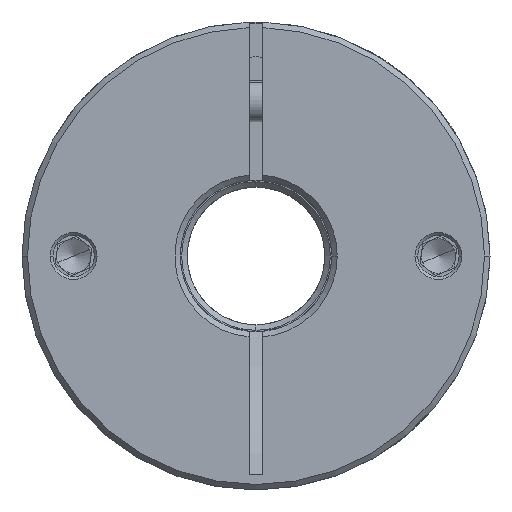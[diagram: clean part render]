
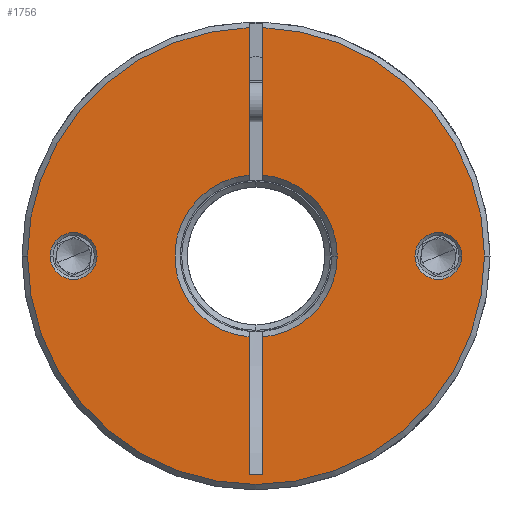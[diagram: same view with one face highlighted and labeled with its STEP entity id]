
A CAD part, front view. The second image highlights one B-rep face of the part: STEP entity #1756.
In plain terms, the highlighted planar face has unit normal (0, -1, 0).
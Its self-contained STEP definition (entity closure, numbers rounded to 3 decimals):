
#182 = EDGE_CURVE ( 'NONE', #680, #11649, #7824, .T. ) ;
#199 = EDGE_CURVE ( 'NONE', #8150, #680, #2645, .T. ) ;
#409 = CARTESIAN_POINT ( 'NONE',  ( -25.835, -47.045, 68. ) ) ;
#478 = AXIS2_PLACEMENT_3D ( 'NONE', #9976, #4789, #12932 ) ;
#487 = DIRECTION ( 'NONE',  ( 0., 1., 0. ) ) ;
#680 = VERTEX_POINT ( 'NONE', #10669 ) ;
#716 = CARTESIAN_POINT ( 'NONE',  ( -3.735, -47.045, 79.758 ) ) ;
#1042 = EDGE_CURVE ( 'NONE', #12884, #9621, #4394, .T. ) ;
#1096 = VECTOR ( 'NONE', #11996, 1000. ) ;
#1102 = CARTESIAN_POINT ( 'NONE',  ( -3.735, -47.045, 36.279 ) ) ;
#1108 = VERTEX_POINT ( 'NONE', #5013 ) ;
#1195 = EDGE_CURVE ( 'NONE', #12513, #1473, #5344, .T. ) ;
#1197 = DIRECTION ( 'NONE',  ( 1., 0., 0. ) ) ;
#1293 = CARTESIAN_POINT ( 'NONE',  ( -35.935, -47.045, 68. ) ) ;
#1357 = LINE ( 'NONE', #8337, #7387 ) ;
#1437 = AXIS2_PLACEMENT_3D ( 'NONE', #12860, #10727, #11833 ) ;
#1473 = VERTEX_POINT ( 'NONE', #6521 ) ;
#1756 = ADVANCED_FACE ( 'NONE', ( #9900, #7290, #4520 ), #13023, .T. ) ;
#1832 = CIRCLE ( 'NONE', #10543, 3.4 ) ;
#1925 = DIRECTION ( 'NONE',  ( 0., 1., 0. ) ) ;
#2071 = DIRECTION ( 'NONE',  ( 0., 0., -1. ) ) ;
#2102 = VECTOR ( 'NONE', #5621, 1000. ) ;
#2313 = ORIENTED_EDGE ( 'NONE', *, *, #3287, .T. ) ;
#2468 = AXIS2_PLACEMENT_3D ( 'NONE', #6723, #487, #5790 ) ;
#2519 = EDGE_CURVE ( 'NONE', #1473, #12513, #13300, .T. ) ;
#2645 = LINE ( 'NONE', #5507, #5055 ) ;
#2768 = DIRECTION ( 'NONE',  ( 1., 0., 0. ) ) ;
#3016 = ORIENTED_EDGE ( 'NONE', *, *, #6584, .T. ) ;
#3032 = CIRCLE ( 'NONE', #1437, 11.8 ) ;
#3068 = DIRECTION ( 'NONE',  ( 1., 0., 0. ) ) ;
#3071 = VECTOR ( 'NONE', #11389, 1000. ) ;
#3287 = EDGE_CURVE ( 'NONE', #8914, #8335, #6271, .T. ) ;
#3343 = DIRECTION ( 'NONE',  ( 0., 1., 0. ) ) ;
#3471 = CIRCLE ( 'NONE', #11650, 33.2 ) ;
#3552 = ORIENTED_EDGE ( 'NONE', *, *, #7817, .T. ) ;
#3562 = AXIS2_PLACEMENT_3D ( 'NONE', #4354, #3343, #5421 ) ;
#3773 = VERTEX_POINT ( 'NONE', #3913 ) ;
#3802 = ORIENTED_EDGE ( 'NONE', *, *, #13337, .F. ) ;
#3913 = CARTESIAN_POINT ( 'NONE',  ( -1.735, -47.045, 36.279 ) ) ;
#3931 = EDGE_LOOP ( 'NONE', ( #9073, #12869 ) ) ;
#3959 = CARTESIAN_POINT ( 'NONE',  ( 20.365, -47.045, 68. ) ) ;
#4154 = AXIS2_PLACEMENT_3D ( 'NONE', #7930, #11969, #2768 ) ;
#4345 = EDGE_CURVE ( 'NONE', #13047, #8335, #1357, .T. ) ;
#4354 = CARTESIAN_POINT ( 'NONE',  ( -2.735, -47.045, 68. ) ) ;
#4359 = DIRECTION ( 'NONE',  ( 1., 0., 0. ) ) ;
#4394 = CIRCLE ( 'NONE', #6714, 3.4 ) ;
#4454 = AXIS2_PLACEMENT_3D ( 'NONE', #13307, #9154, #4804 ) ;
#4520 = FACE_OUTER_BOUND ( 'NONE', #8253, .T. ) ;
#4789 = DIRECTION ( 'NONE',  ( 0., -1., 0. ) ) ;
#4804 = DIRECTION ( 'NONE',  ( 1., 0., 0. ) ) ;
#4861 = LINE ( 'NONE', #10451, #3071 ) ;
#5013 = CARTESIAN_POINT ( 'NONE',  ( -1.735, -47.045, 56.242 ) ) ;
#5055 = VECTOR ( 'NONE', #5741, 1000. ) ;
#5267 = CARTESIAN_POINT ( 'NONE',  ( -3.735, -47.045, 101.185 ) ) ;
#5344 = CIRCLE ( 'NONE', #8608, 3.4 ) ;
#5421 = DIRECTION ( 'NONE',  ( 1., 0., 0. ) ) ;
#5507 = CARTESIAN_POINT ( 'NONE',  ( -1.735, -47.045, 68. ) ) ;
#5527 = VERTEX_POINT ( 'NONE', #1102 ) ;
#5621 = DIRECTION ( 'NONE',  ( 0., 0., -1. ) ) ;
#5741 = DIRECTION ( 'NONE',  ( 0., 0., -1. ) ) ;
#5790 = DIRECTION ( 'NONE',  ( 1., 0., 0. ) ) ;
#6181 = CARTESIAN_POINT ( 'NONE',  ( -29.235, -47.045, 68. ) ) ;
#6271 = CIRCLE ( 'NONE', #2468, 11.8 ) ;
#6296 = CARTESIAN_POINT ( 'NONE',  ( -29.235, -47.045, 68. ) ) ;
#6444 = CARTESIAN_POINT ( 'NONE',  ( -2.735, -47.045, 68. ) ) ;
#6521 = CARTESIAN_POINT ( 'NONE',  ( 27.165, -47.045, 68. ) ) ;
#6584 = EDGE_CURVE ( 'NONE', #1108, #3773, #4861, .T. ) ;
#6628 = CARTESIAN_POINT ( 'NONE',  ( -1.735, -47.045, 101.185 ) ) ;
#6666 = DIRECTION ( 'NONE',  ( 1., 0., 0. ) ) ;
#6679 = AXIS2_PLACEMENT_3D ( 'NONE', #8836, #11820, #6666 ) ;
#6714 = AXIS2_PLACEMENT_3D ( 'NONE', #6181, #1925, #3068 ) ;
#6723 = CARTESIAN_POINT ( 'NONE',  ( -2.735, -47.045, 68. ) ) ;
#6839 = ORIENTED_EDGE ( 'NONE', *, *, #10158, .T. ) ;
#6920 = CARTESIAN_POINT ( 'NONE',  ( -3.735, -47.045, 36.279 ) ) ;
#6924 = ORIENTED_EDGE ( 'NONE', *, *, #7226, .T. ) ;
#7226 = EDGE_CURVE ( 'NONE', #3773, #5527, #10058, .T. ) ;
#7290 = FACE_BOUND ( 'NONE', #9263, .T. ) ;
#7387 = VECTOR ( 'NONE', #2071, 1000. ) ;
#7753 = EDGE_CURVE ( 'NONE', #13047, #9512, #11473, .T. ) ;
#7817 = EDGE_CURVE ( 'NONE', #9512, #10668, #9532, .T. ) ;
#7824 = CIRCLE ( 'NONE', #3562, 11.8 ) ;
#7930 = CARTESIAN_POINT ( 'NONE',  ( -2.735, -47.045, 68. ) ) ;
#8150 = VERTEX_POINT ( 'NONE', #6628 ) ;
#8170 = EDGE_CURVE ( 'NONE', #11649, #1108, #3032, .T. ) ;
#8238 = ORIENTED_EDGE ( 'NONE', *, *, #199, .T. ) ;
#8253 = EDGE_LOOP ( 'NONE', ( #9739, #10892, #3552, #6839, #8238, #10765, #11880, #3016, #6924, #3802, #2313 ) ) ;
#8335 = VERTEX_POINT ( 'NONE', #716 ) ;
#8337 = CARTESIAN_POINT ( 'NONE',  ( -3.735, -47.045, 68. ) ) ;
#8608 = AXIS2_PLACEMENT_3D ( 'NONE', #11495, #11407, #10517 ) ;
#8836 = CARTESIAN_POINT ( 'NONE',  ( -2.735, -47.045, 68. ) ) ;
#8914 = VERTEX_POINT ( 'NONE', #9229 ) ;
#9073 = ORIENTED_EDGE ( 'NONE', *, *, #2519, .T. ) ;
#9154 = DIRECTION ( 'NONE',  ( 0., 1., 0. ) ) ;
#9229 = CARTESIAN_POINT ( 'NONE',  ( -3.735, -47.045, 56.242 ) ) ;
#9263 = EDGE_LOOP ( 'NONE', ( #9734, #9397 ) ) ;
#9397 = ORIENTED_EDGE ( 'NONE', *, *, #1042, .T. ) ;
#9512 = VERTEX_POINT ( 'NONE', #1293 ) ;
#9532 = CIRCLE ( 'NONE', #4154, 33.2 ) ;
#9562 = DIRECTION ( 'NONE',  ( 0., -1., 0. ) ) ;
#9621 = VERTEX_POINT ( 'NONE', #409 ) ;
#9734 = ORIENTED_EDGE ( 'NONE', *, *, #10148, .T. ) ;
#9739 = ORIENTED_EDGE ( 'NONE', *, *, #4345, .F. ) ;
#9744 = CARTESIAN_POINT ( 'NONE',  ( -32.635, -47.045, 68. ) ) ;
#9900 = FACE_BOUND ( 'NONE', #3931, .T. ) ;
#9976 = CARTESIAN_POINT ( 'NONE',  ( -2.735, -47.045, 68. ) ) ;
#10058 = LINE ( 'NONE', #6920, #1096 ) ;
#10069 = CARTESIAN_POINT ( 'NONE',  ( 30.465, -47.045, 68. ) ) ;
#10148 = EDGE_CURVE ( 'NONE', #9621, #12884, #1832, .T. ) ;
#10158 = EDGE_CURVE ( 'NONE', #10668, #8150, #3471, .T. ) ;
#10451 = CARTESIAN_POINT ( 'NONE',  ( -1.735, -47.045, 68. ) ) ;
#10517 = DIRECTION ( 'NONE',  ( 1., 0., 0. ) ) ;
#10543 = AXIS2_PLACEMENT_3D ( 'NONE', #6296, #11421, #4359 ) ;
#10668 = VERTEX_POINT ( 'NONE', #10069 ) ;
#10669 = CARTESIAN_POINT ( 'NONE',  ( -1.735, -47.045, 79.758 ) ) ;
#10727 = DIRECTION ( 'NONE',  ( 0., 1., 0. ) ) ;
#10765 = ORIENTED_EDGE ( 'NONE', *, *, #182, .T. ) ;
#10806 = CARTESIAN_POINT ( 'NONE',  ( -3.735, -47.045, 68. ) ) ;
#10892 = ORIENTED_EDGE ( 'NONE', *, *, #7753, .T. ) ;
#11389 = DIRECTION ( 'NONE',  ( 0., 0., -1. ) ) ;
#11407 = DIRECTION ( 'NONE',  ( 0., 1., 0. ) ) ;
#11421 = DIRECTION ( 'NONE',  ( 0., 1., 0. ) ) ;
#11473 = CIRCLE ( 'NONE', #6679, 33.2 ) ;
#11495 = CARTESIAN_POINT ( 'NONE',  ( 23.765, -47.045, 68. ) ) ;
#11649 = VERTEX_POINT ( 'NONE', #12388 ) ;
#11650 = AXIS2_PLACEMENT_3D ( 'NONE', #6444, #9562, #1197 ) ;
#11820 = DIRECTION ( 'NONE',  ( 0., -1., 0. ) ) ;
#11833 = DIRECTION ( 'NONE',  ( 1., 0., 0. ) ) ;
#11880 = ORIENTED_EDGE ( 'NONE', *, *, #8170, .T. ) ;
#11969 = DIRECTION ( 'NONE',  ( 0., -1., 0. ) ) ;
#11996 = DIRECTION ( 'NONE',  ( -1., 0., 0. ) ) ;
#12388 = CARTESIAN_POINT ( 'NONE',  ( 9.065, -47.045, 68. ) ) ;
#12513 = VERTEX_POINT ( 'NONE', #3959 ) ;
#12860 = CARTESIAN_POINT ( 'NONE',  ( -2.735, -47.045, 68. ) ) ;
#12869 = ORIENTED_EDGE ( 'NONE', *, *, #1195, .T. ) ;
#12884 = VERTEX_POINT ( 'NONE', #9744 ) ;
#12932 = DIRECTION ( 'NONE',  ( 1., 0., 0. ) ) ;
#12992 = LINE ( 'NONE', #10806, #2102 ) ;
#13023 = PLANE ( 'NONE',  #478 ) ;
#13047 = VERTEX_POINT ( 'NONE', #5267 ) ;
#13300 = CIRCLE ( 'NONE', #4454, 3.4 ) ;
#13307 = CARTESIAN_POINT ( 'NONE',  ( 23.765, -47.045, 68. ) ) ;
#13337 = EDGE_CURVE ( 'NONE', #8914, #5527, #12992, .T. ) ;
